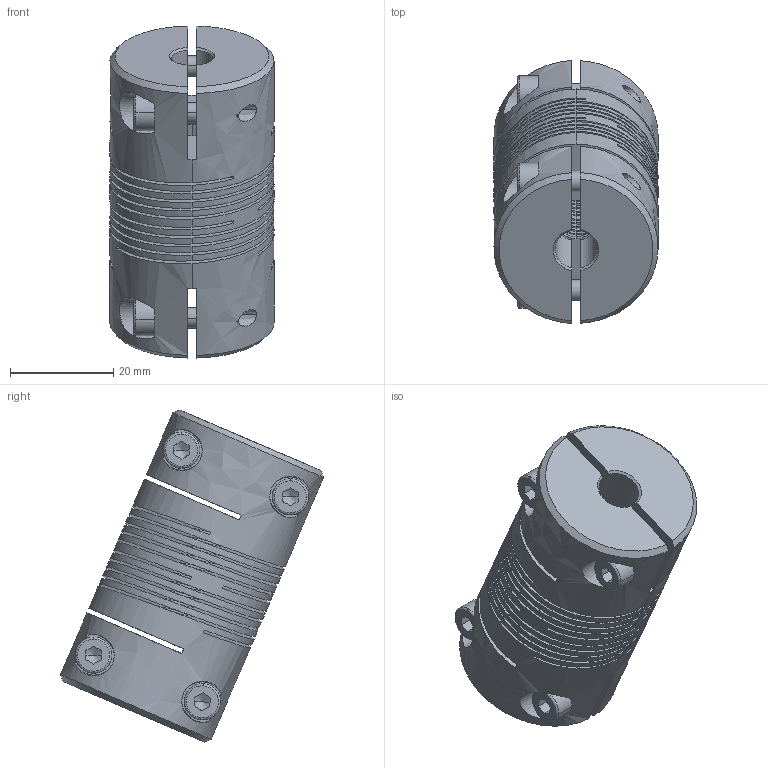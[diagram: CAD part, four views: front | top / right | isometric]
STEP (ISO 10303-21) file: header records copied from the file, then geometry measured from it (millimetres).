
FILE_DESCRIPTION((''),'2;1');
FILE_NAME('723_32','2026-02-24T',('SYSTEM'),(''),'PRO/ENGINEER BY PARAMETRIC TECHNOLOGY CORPORATION, 2016360','PRO/ENGINEER BY PARAMETRIC TECHNOLOGY CORPORATION, 2016360','');
FILE_SCHEMA(('AUTOMOTIVE_DESIGN { 1 0 10303 214 1 1 1 1 }'));
Length unit declared in the file: inch
Products named in the file (1): 723_32
Bounding box: 31.75 x 50.9 x 64.23 mm (x, y, z)
Volume: 35104.5 mm3; surface area: 26052.3 mm2
Topology: 1 solids, 1 shells, 206 faces, 609 edges, 403 vertices
Faces by surface type: bspline 206
Entity records: 15966 total; most frequent: CARTESIAN_POINT 10407, ORIENTED_EDGE 1202, EDGE_CURVE 601, B_SPLINE_CURVE_WITH_KNOTS 420, VERTEX_POINT 403, EDGE_LOOP 234, FACE_OUTER_BOUND 206, FILL_AREA_STYLE_COLOUR 206
